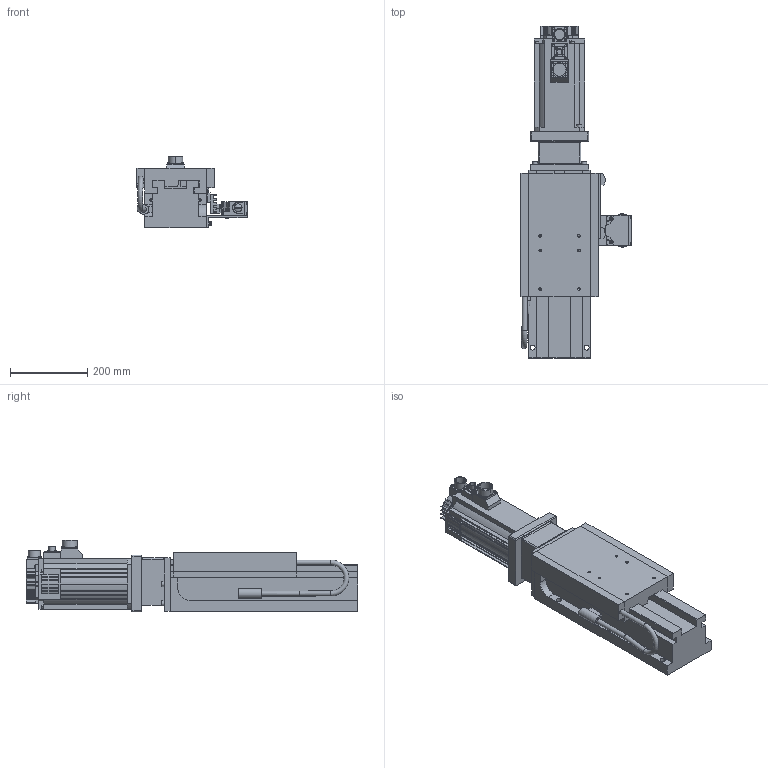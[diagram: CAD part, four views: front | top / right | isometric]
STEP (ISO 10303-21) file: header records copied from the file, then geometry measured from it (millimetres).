
FILE_DESCRIPTION((''),'2;1');
FILE_NAME('C:\VaultWork\Zeichnungen\Maßblätter\Vorschubschlitten\H160\M01819-3-0 Maßblatt H160-me-150-EE.stp','2013-08-12T14:42:59',('Sergeew'),(''),'Autodesk Inventor 2012','Autodesk Inventor 2012','');
FILE_SCHEMA(('AUTOMOTIVE_DESIGN { 1 0 10303 214 1 1 1 1 }'));
Length unit declared in the file: millimetre
Products named in the file (1): M01819-3-0 Maßblatt H160-me-150-EE
Bounding box: 285 x 859 x 185.75 mm (x, y, z)
Volume: 15741697.4 mm3; surface area: 912675 mm2
Topology: 1 solids, 10 shells, 1098 faces, 2881 edges, 1874 vertices
Faces by surface type: plane 727, cylinder 289, cone 52, torus 25, revolution 2, sphere 2, bspline 1
Full cylindrical faces by diameter (mm): 3.8 x2, 4 x2, 4.134 x4, 4.917 x2, 5 x4, 5.5 x4, 5.9 x2, 6 x8, 6.6 x2, 6.647 x6, 7 x2, 8 x1, 9.43 x4, 9.98 x2, 10 x4, 13 x14, 20 x2, 25 x1
Entity records: 33699 total; most frequent: CARTESIAN_POINT 6197, DIRECTION 5454, ORIENTED_EDGE 5346, EDGE_CURVE 2673, VECTOR 1860, LINE 1860, AXIS2_PLACEMENT_3D 1796, VERTEX_POINT 1796
